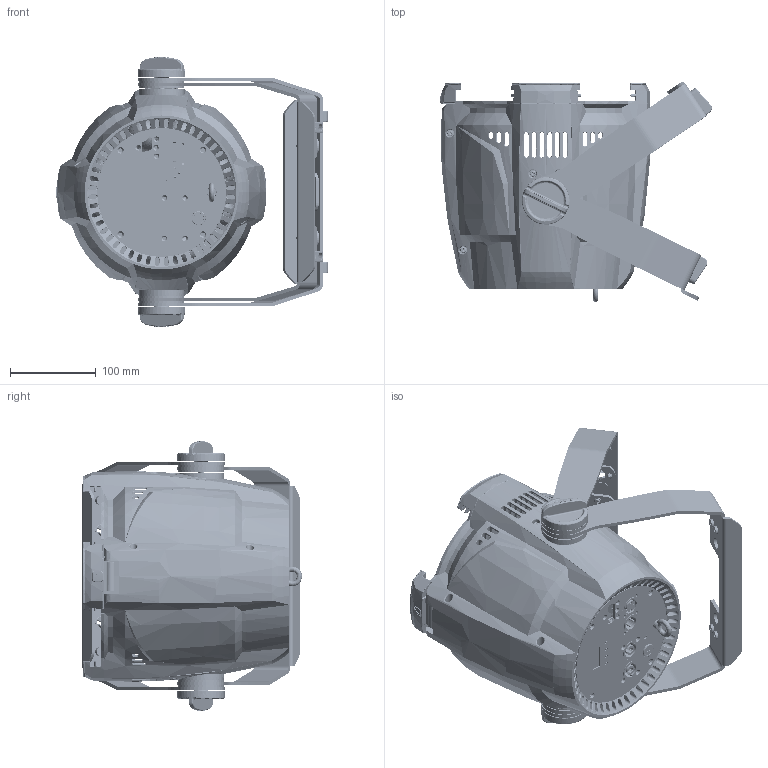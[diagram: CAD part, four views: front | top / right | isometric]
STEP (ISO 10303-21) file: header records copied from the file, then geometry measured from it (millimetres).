
FILE_DESCRIPTION(('HOOPS Exchange Step'),'2;1');
FILE_NAME('E:\cdb\hoops_acs\acs\9788\78325\Data_IN\20211214_CKC\013041-4-Light Fixture.step','2024-06-14T12:55:56+02:00',('caddok'),('Unknown organisation'),'HOOPS Exchange 2024.0','HOOPS Exchange','Unknown authorisation');
FILE_SCHEMA( ('AP242_MANAGED_MODEL_BASED_3D_ENGINEERING_MIM_LF {1 0 10303 442 1 1 4 }') );
Length unit declared in the file: millimetre
Products named in the file (2): Standard; 013041-4-Light Fixture
Assembly tree (1 placements, depth 2):
  013041-4-Light Fixture
    Standard
Bounding box: 316.01 x 255.9 x 313.91 mm (x, y, z)
Volume: 1384143.1 mm3; surface area: 853616 mm2
Topology: 115 solids, 120 shells, 6494 faces, 16936 edges, 10632 vertices
Faces by surface type: bspline 2561, plane 2140, cylinder 1292, cone 278, extrusion 180, torus 43
Full cylindrical faces by diameter (mm): 1.2 x3, 1.5 x4, 2.2 x12, 2.3 x6, 2.4 x4, 2.5 x24, 3 x32, 3.2 x2, 3.3 x37, 3.5 x37, 4 x32, 4.5 x31, 5 x15, 5.2 x4, 5.4 x2, 5.5 x12, 6 x3, 6.2 x3, 6.289 x1, 6.3 x4, 6.5 x1, 6.7 x8, 6.8 x20, 7 x20, 7.5 x2, 8 x32, 8.5 x18, 8.9 x2, 10 x9, 11.5 x1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
Entity records: 695981 total; most frequent: CARTESIAN_POINT 559054, ORIENTED_EDGE 33340, DIRECTION 19983, EDGE_CURVE 16672, VERTEX_POINT 10632, B_SPLINE_CURVE_WITH_KNOTS 7939, EDGE_LOOP 7228, FACE_BOUND 7228
